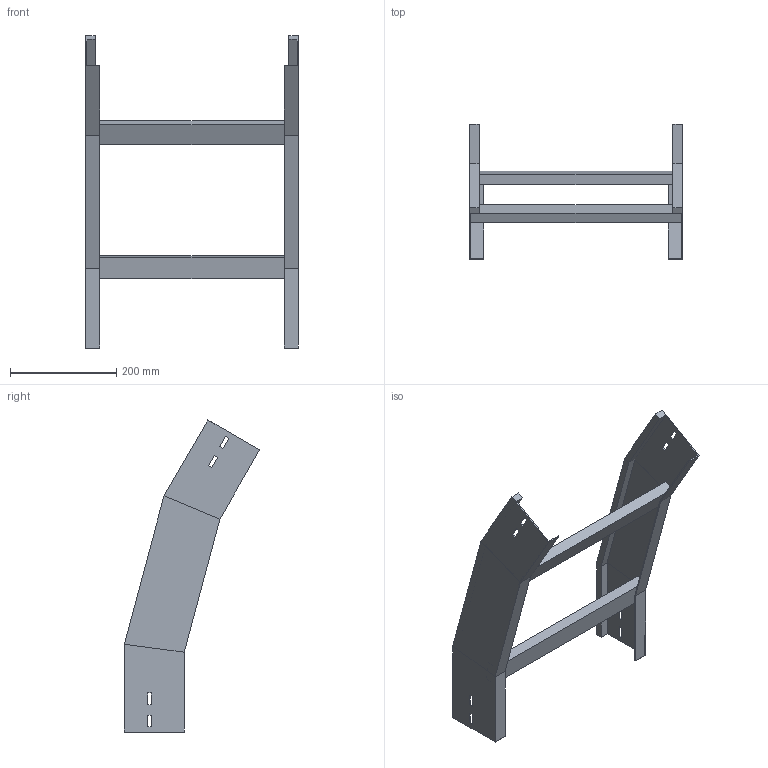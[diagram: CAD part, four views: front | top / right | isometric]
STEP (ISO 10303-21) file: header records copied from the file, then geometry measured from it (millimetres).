
FILE_DESCRIPTION (( 'STEP AP214' ), '1' );
FILE_NAME ('35B5J400.step', '2025-02-21T14:47:23', ( '' ), ( '' ), 'SwSTEP 2.0', 'SolidWorks 2023', '' );
FILE_SCHEMA (( 'AUTOMOTIVE_DESIGN' ));
Length unit declared in the file: millimetre
Products named in the file (3): LONGH.DISCESA_30°_H112.5_R500; TRAVERSINO_400; 35B5J400
Assembly tree (5 placements, depth 2):
  35B5J400
    LONGH.DISCESA_30°_H112.5_R500  x2
    TRAVERSINO_400  x3
Bounding box: 400 x 254.53 x 586.33 mm (x, y, z)
Volume: 1516840.7 mm3; surface area: 513846.8 mm2
Topology: 5 solids, 5 shells, 102 faces, 244 edges, 152 vertices
Faces by surface type: plane 102
Entity records: 1480 total; most frequent: CARTESIAN_POINT 244, ORIENTED_EDGE 232, DIRECTION 228, LINE 116, VECTOR 116, EDGE_CURVE 116, VERTEX_POINT 72, AXIS2_PLACEMENT_3D 56
